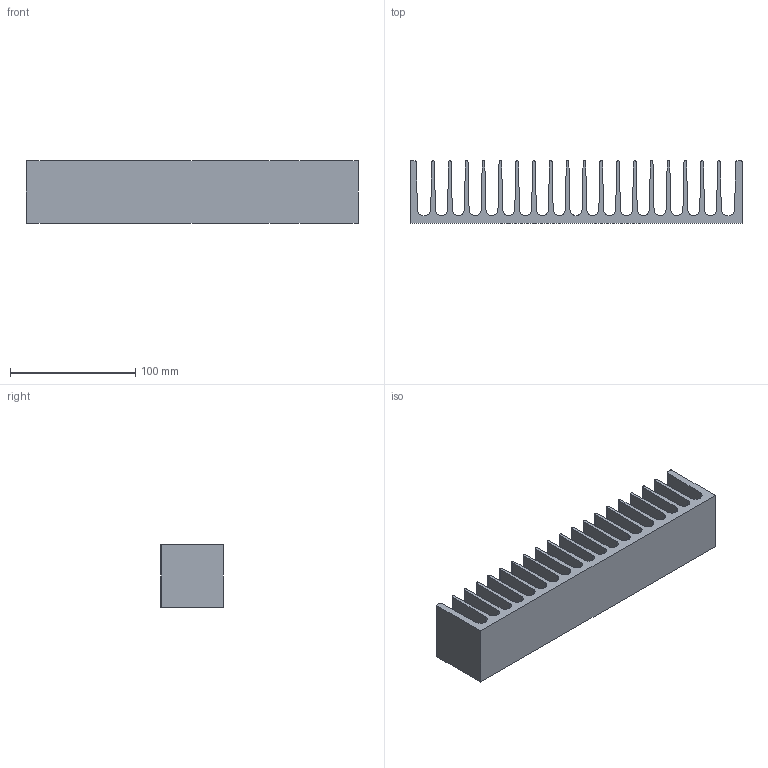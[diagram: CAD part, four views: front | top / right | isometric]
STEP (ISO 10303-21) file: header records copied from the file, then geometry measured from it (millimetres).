
FILE_DESCRIPTION (( 'STEP AP203' ), '1' );
FILE_NAME ('PR 164-50.step', '2002-10-21T08:00:02', ( 'Wolfgang Müller' ), ( 'DPS' ), 'SwSTEP 2.0', 'SolidWorks 2002264', '' );
FILE_SCHEMA (( 'CONFIG_CONTROL_DESIGN' ));
Length unit declared in the file: millimetre
Products named in the file (1): PR 164-50
Bounding box: 265 x 50 x 50 mm (x, y, z)
Volume: 231280.3 mm3; surface area: 117893.3 mm2
Topology: 1 solids, 1 shells, 86 faces, 252 edges, 168 vertices
Faces by surface type: plane 45, cylinder 41
Entity records: 2955 total; most frequent: DIRECTION 508, CARTESIAN_POINT 507, ORIENTED_EDGE 504, EDGE_CURVE 252, LINE 170, VECTOR 170, AXIS2_PLACEMENT_3D 169, VERTEX_POINT 168
